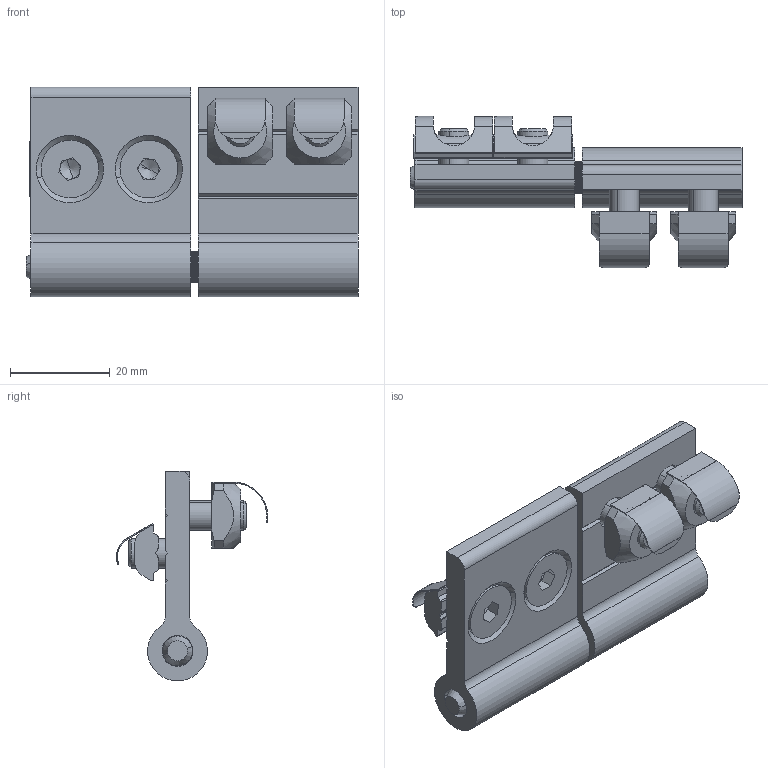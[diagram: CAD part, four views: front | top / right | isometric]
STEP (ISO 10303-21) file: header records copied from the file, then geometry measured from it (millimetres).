
FILE_DESCRIPTION (( 'STEP AP214' ), '1' );
FILE_NAME ('1.4002 Sarana 30-45.STEP', '2025-09-15T08:18:26', ( '' ), ( '' ), 'SwSTEP 2.0', 'SolidWorks 2025', '' );
FILE_SCHEMA (( 'AUTOMOTIVE_DESIGN' ));
Length unit declared in the file: millimetre
Products named in the file (1): 1.4002 Sarana 30-45
Bounding box: 66.5 x 30.29 x 42 mm (x, y, z)
Volume: 19939.2 mm3; surface area: 14985.4 mm2
Topology: 11 solids, 11 shells, 715 faces, 1783 edges, 1150 vertices
Faces by surface type: plane 479, cylinder 172, cone 56, torus 8
Entity records: 29639 total; most frequent: CARTESIAN_POINT 4393, DIRECTION 3623, ORIENTED_EDGE 3550, EDGE_CURVE 1775, AXIS2_PLACEMENT_3D 1268, VERTEX_POINT 1150, VECTOR 1087, LINE 1087
